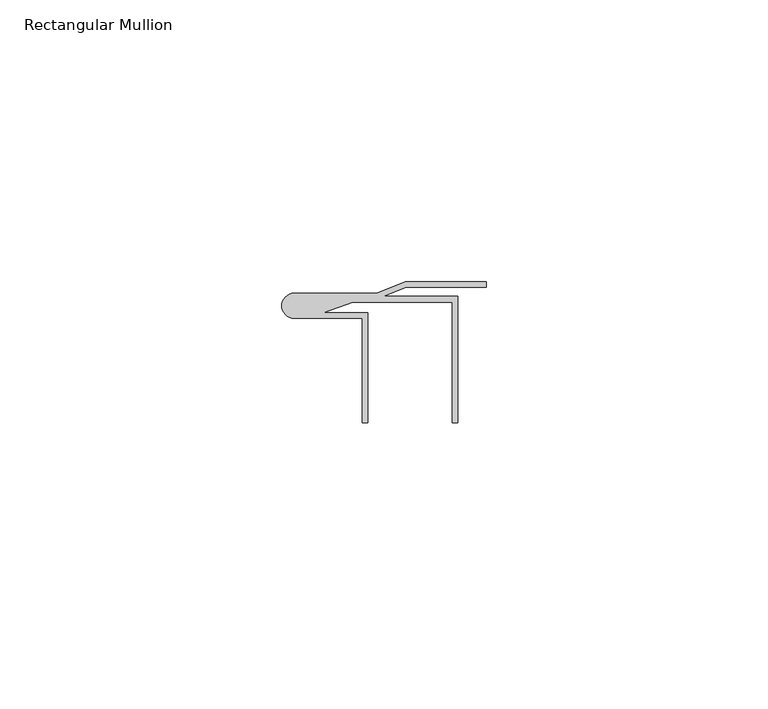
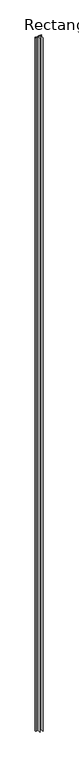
"""IFC4 building model written with IfcOpenShell, lengths in millimetres: member geometry, Rectangular Mullion : Stratco_Hiland_Interlock_Concealed Fix 15mm Gap_Intermediate."""

from ifc_helpers import new_model, si_unit, point, frame, frame_2d, origin, place, context, project, spatial, polyline, circle_curve, trimmed, segment, composite_curve, outline, extrude, source, transform, mapped, element, save


def rectangular_mullion_80ef18e3(model_context):
    return source(origin(), model_context, "Body", "SweptSolid", [
        extrude(outline(composite_curve([segment(polyline([(0.0, -3.6), (-17.6381457, -3.6), (-22.8583528, -5.5), (-15.0, -5.5), (-15.0, -25.0), (-16.0, -25.0), (-16.0, -6.5), (-28.0, -6.5)]), True, "CONTINUOUS"), segment(trimmed(circle_curve(frame_2d((-28.0, -4.25)), 2.25), [point((-28.0, -6.5))], [point((-28.0, -2.0))], False, "CARTESIAN"), True, "CONTINUOUS"), segment(polyline([(-28.0, -2.0), (-13.3843316, -2.0), (-8.3601427, 0.0), (6.0, 0.0), (6.0, -1.0), (-8.1684216, -1.0), (-12.1877727, -2.6), (1.0, -2.6), (1.0, -25.0), (0.0, -25.0), (0.0, -3.6)]), True, "CONTINUOUS")], self_intersect=False)), frame((0.0, 0.0, -4000.0), z_axis=(0.0, 0.0, 1.0), x_axis=(1.0, 0.0, 0.0)), (0.0, 0.0, 1.0), 4000.0),
    ])


if __name__ == "__main__":
    model = new_model("IFC4")
    model_context = context("Model", 3, world=origin())
    ifc_project = project(units=[si_unit("LENGTHUNIT", "METRE", prefix="MILLI")], contexts=[model_context])
    site = spatial("IfcSite", under=ifc_project)
    building = spatial("IfcBuilding", under=site)
    placement = place(None, origin())
    rectangular_mullion_shape = rectangular_mullion_80ef18e3(model_context)
    element("IfcMember", 1, ObjectType="Rectangular Mullion : Stratco_Hiland_Interlock_Concealed Fix 15mm Gap_Intermediate", at=placement, inside=building, context=model_context, shape_type="MappedRepresentation", body=[
        mapped(rectangular_mullion_shape, transform((0.0, 0.0, 0.0), x_axis=(1.0, 0.0, 0.0), y_axis=(0.0, 1.0, 0.0), z_axis=(0.0, 0.0, 1.0))),
    ])
    save(model, "model.ifc")
